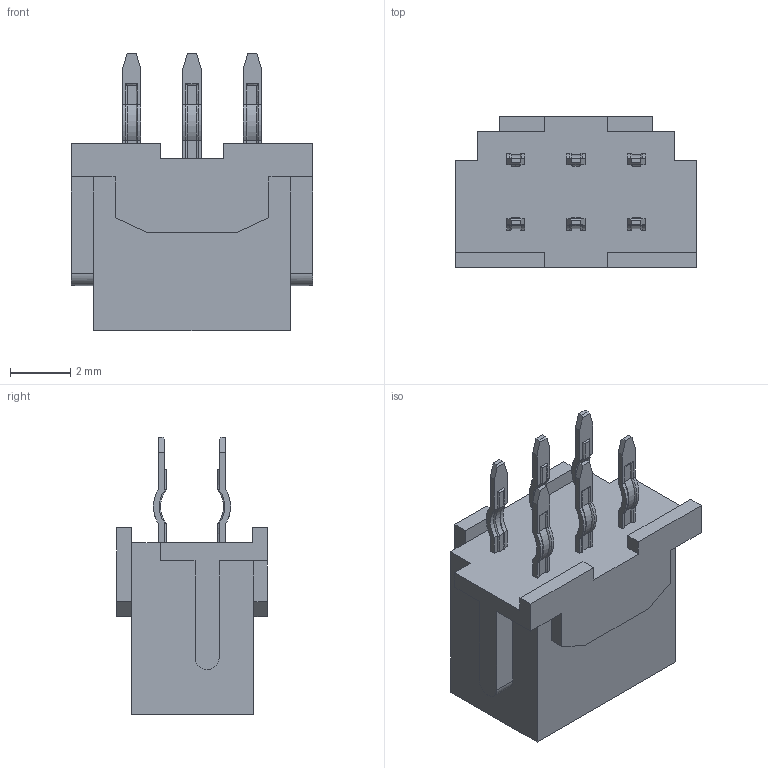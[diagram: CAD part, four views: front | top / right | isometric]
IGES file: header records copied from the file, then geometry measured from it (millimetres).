
Global section: file name: T:/3DWEB公開/NCW/DF11/DF11-#DS-2DSA/DF11-6DS-2DSA, ; native system: SolidDesigner 12.00  10-Sep-2003; preprocessor: OneSpace IGES_3D V1.0; author: Unknown; organization: Unknown; date: 20070322.140838; units: millimetre
Bounding box: 8 x 5 x 9.2 mm (x, y, z)
Volume: 172.8 mm3; surface area: 263.3 mm2
Topology: 1 solids, 1 shells, 292 faces, 784 edges, 506 vertices
Faces by surface type: bspline 292
